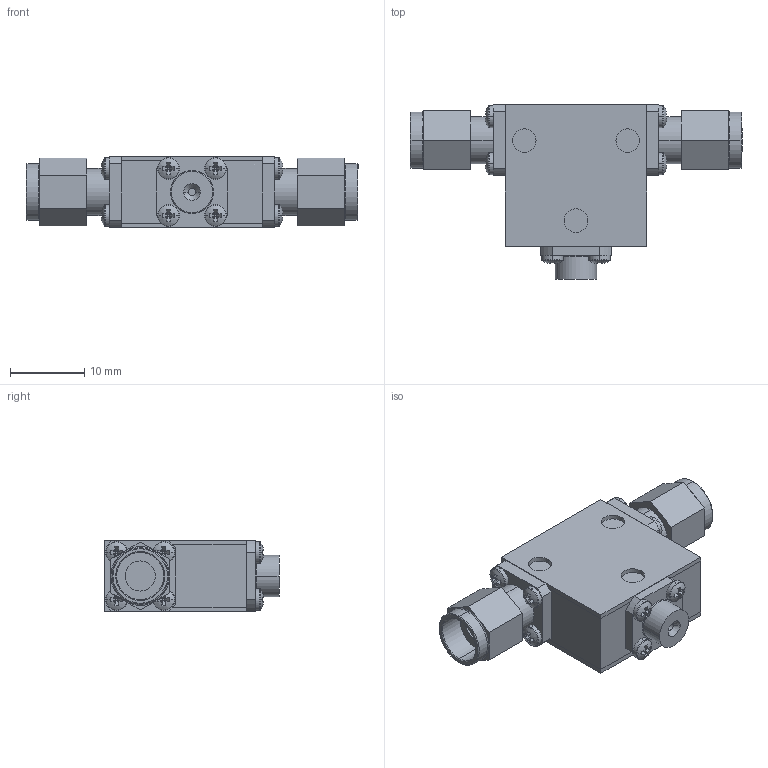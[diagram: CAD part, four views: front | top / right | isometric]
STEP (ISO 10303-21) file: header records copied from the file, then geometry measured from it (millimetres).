
FILE_DESCRIPTION (( 'STEP AP214' ), '1' );
FILE_NAME ('Package 10 Iso MM.step', '2021-12-01T20:56:54', ( '' ), ( '' ), 'SwSTEP 2.0', 'SolidWorks 2016', '' );
FILE_SCHEMA (( 'AUTOMOTIVE_DESIGN' ));
Length unit declared in the file: inch
Products named in the file (6): pan cross head_ai_CR-PHMS 0.06-80x0.125x0.125-N; Package 10; Package Size 10; 0.375 flange; Package 10 Iso MM; Delta SMA-Male 0.375 flagne
Assembly tree (17 placements, depth 2):
  Package 10 Iso MM
    Package Size 10
    Package 10
    pan cross head_ai_CR-PHMS 0.06-80x0.125x0.125-N  x12
    Delta SMA-Male 0.375 flagne  x2
    0.375 flange
Bounding box: 44.81 x 23.5 x 9.65 mm (x, y, z)
Volume: 4612.9 mm3; surface area: 5359.1 mm2
Topology: 17 solids, 17 shells, 430 faces, 980 edges, 604 vertices
Faces by surface type: plane 246, cylinder 118, torus 38, sphere 24, cone 4
Entity records: 4284 total; most frequent: DIRECTION 774, CARTESIAN_POINT 668, ORIENTED_EDGE 632, EDGE_CURVE 316, AXIS2_PLACEMENT_3D 308, VERTEX_POINT 202, EDGE_LOOP 168, CIRCLE 158
